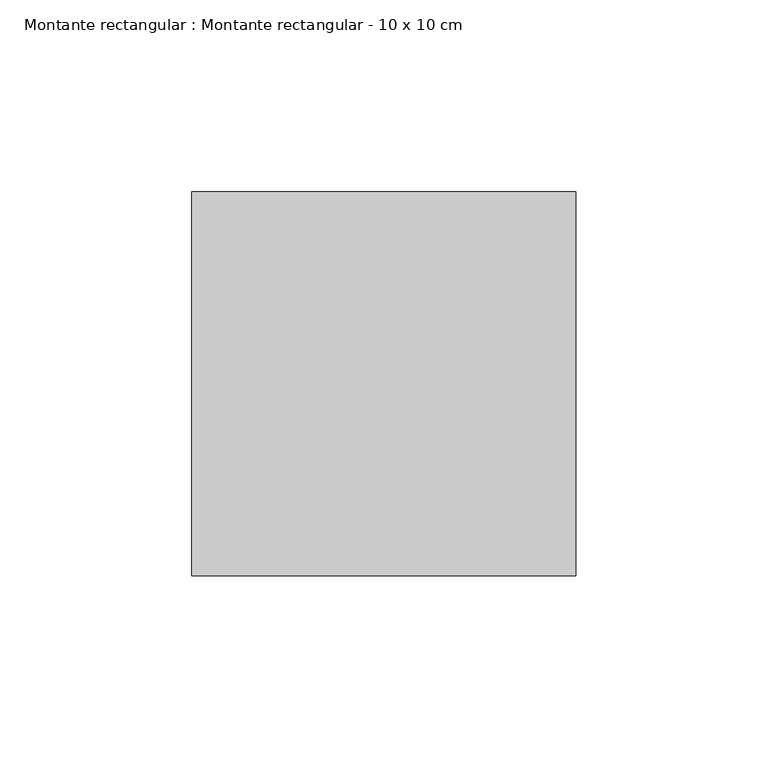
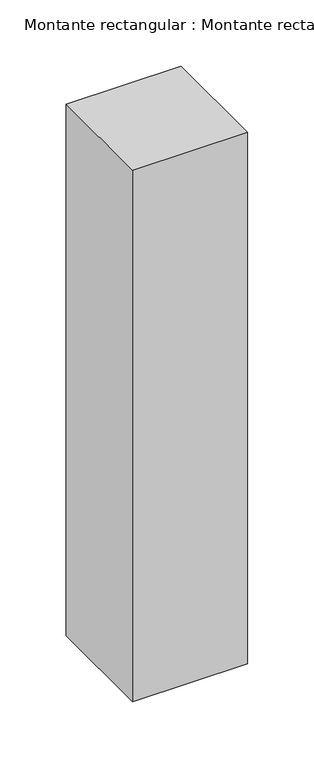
"""IFC4 building model written with IfcOpenShell, lengths in millimetres: member geometry, Montante rectangular : Montante rectangular - 10 x 10 cm."""

from ifc_helpers import new_model, si_unit, frame, origin, place, context, project, spatial, polyline, outline, extrude, source, transform, mapped, element, save


def montante_rectangular_montante_rectangular_10_x_10_cm_9171b38a(model_context):
    return source(origin(), model_context, "Body", "SweptSolid", [
        extrude(outline(polyline([(0.0, 50.0), (0.0, -50.0), (-100.0, -50.0), (-100.0, 50.0), (0.0, 50.0)])), frame((0.0, 0.0, -488.2604383), z_axis=(0.0, 0.0, 1.0), x_axis=(1.0, 0.0, 0.0)), (0.0, 0.0, 1.0), 488.2604383),
    ])


if __name__ == "__main__":
    model = new_model("IFC4")
    model_context = context("Model", 3, world=origin())
    ifc_project = project(units=[si_unit("LENGTHUNIT", "METRE", prefix="MILLI")], contexts=[model_context])
    site = spatial("IfcSite", under=ifc_project)
    building = spatial("IfcBuilding", under=site)
    placement = place(None, origin())
    montante_rectangular_montante_rectangular_10_x_10_cm_shape = montante_rectangular_montante_rectangular_10_x_10_cm_9171b38a(model_context)
    element("IfcMember", 1, ObjectType="Montante rectangular : Montante rectangular - 10 x 10 cm", at=placement, inside=building, context=model_context, shape_type="MappedRepresentation", body=[
        mapped(montante_rectangular_montante_rectangular_10_x_10_cm_shape, transform((0.0, 0.0, 0.0), x_axis=(1.0, 0.0, 0.0), y_axis=(0.0, 1.0, 0.0), z_axis=(0.0, 0.0, 1.0))),
    ])
    save(model, "model.ifc")
